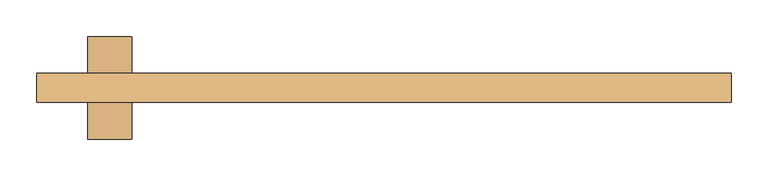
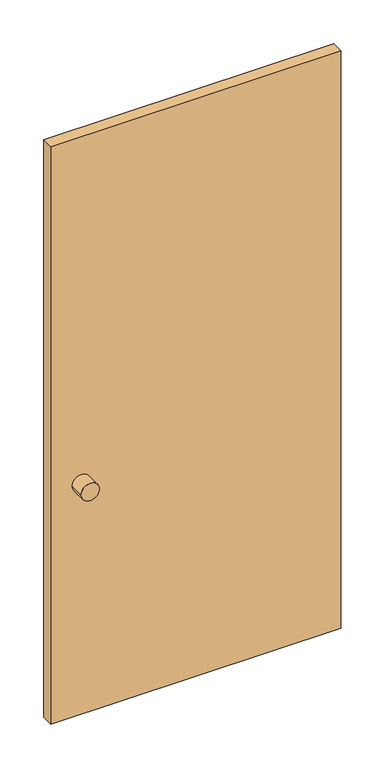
"""IFC4 building model written with IfcOpenShell, lengths in millimetres: door geometry, 営_片開き扉 : LD3 950*2000."""

from ifc_helpers import new_model, si_unit, point, frame, frame_2d, origin, origin_with_axes, place, context, project, spatial, polyline, circle_curve, trimmed, segment, composite_curve, outline, extrude, source, transform, mapped, element, save


def door_c406cbe6(model_context):
    return source(origin(), model_context, "Body", "SweptSolid", [
        extrude(outline(composite_curve([segment(trimmed(circle_curve(frame_2d((800.0, -375.0)), 30.0), [point((800.0, -345.0))], [point((800.0, -405.0))], False, "CARTESIAN"), True, "CONTINUOUS"), segment(trimmed(circle_curve(frame_2d((800.0, -375.0)), 30.0), [point((800.0, -405.0))], [point((800.0, -345.0))], False, "CARTESIAN"), True, "CONTINUOUS")], self_intersect=False)), frame((0.0, -30.0, 0.0), z_axis=(0.0, 1.0, 0.0), x_axis=(0.0, 0.0, 1.0)), (0.0, 0.0, 1.0), 50.0),
        extrude(outline(composite_curve([segment(trimmed(circle_curve(frame_2d((800.0, -375.0)), 30.0), [point((800.0, -345.0))], [point((800.0, -405.0))], False, "CARTESIAN"), True, "CONTINUOUS"), segment(trimmed(circle_curve(frame_2d((800.0, -375.0)), 30.0), [point((800.0, -405.0))], [point((800.0, -345.0))], False, "CARTESIAN"), True, "CONTINUOUS")], self_intersect=False)), frame((0.0, -120.0, 0.0), z_axis=(0.0, 1.0, 0.0), x_axis=(0.0, 0.0, 1.0)), (0.0, 0.0, 1.0), 50.0),
        extrude(outline(polyline([(-475.0, -30.0), (475.0, -30.0), (475.0, -70.0), (-475.0, -70.0), (-475.0, -30.0)])), origin_with_axes(), (0.0, 0.0, 1.0), 2000.0),
    ])


if __name__ == "__main__":
    model = new_model("IFC4")
    model_context = context("Model", 3, world=origin())
    ifc_project = project(units=[si_unit("LENGTHUNIT", "METRE", prefix="MILLI")], contexts=[model_context])
    site = spatial("IfcSite", under=ifc_project)
    building = spatial("IfcBuilding", under=site)
    placement = place(None, origin())
    door_shape = door_c406cbe6(model_context)
    element("IfcDoor", 1, ObjectType="営_片開き扉 : LD3 950*2000", at=placement, inside=building, context=model_context, shape_type="MappedRepresentation", body=[
        mapped(door_shape, transform((0.0, 0.0, 0.0), x_axis=(1.0, 0.0, 0.0), y_axis=(0.0, 1.0, 0.0), z_axis=(0.0, 0.0, 1.0))),
    ])
    save(model, "model.ifc")
